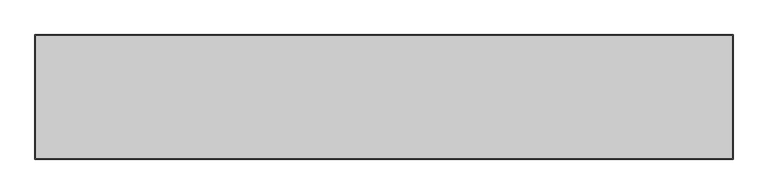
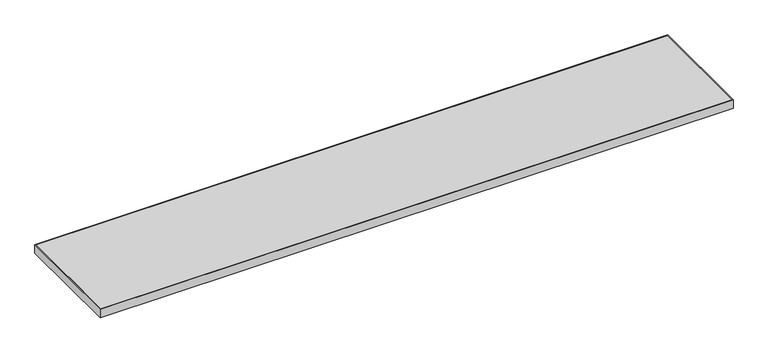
"""IFC4 building model written with IfcOpenShell, lengths in millimetres: furniture geometry, Steelcase - Universal Storage - Square Edge Top - Flush Front - Laminate : Common Top - 15D x 84W."""

from ifc_helpers import new_model, si_unit, frame, origin, place, context, project, spatial, polyline, outline, extrude, source, transform, mapped, element, save


def furniture_af12f208(model_context):
    return source(origin(), model_context, "Body", "SweptSolid", [
        extrude(outline(polyline([(2130.5520001, -3.0479999), (2130.5520001, -377.9520001), (3.0479999, -377.9520001), (3.0479999, -3.0479999), (2130.5520001, -3.0479999)])), frame((0.0, 0.0, 680.72), z_axis=(0.0, 0.0, 1.0), x_axis=(1.0, 0.0, 0.0)), (0.0, 0.0, 1.0), 30.48),
        extrude(outline(polyline([(2133.6, 0.0), (2133.6, -381.0), (0.0, -381.0), (0.0, 0.0), (2133.6, 0.0)]), holes=[polyline([(2130.5520001, -3.0479999), (3.0479999, -3.0479999), (3.0479999, -377.9520001), (2130.5520001, -377.9520001), (2130.5520001, -3.0479999)])]), frame((0.0, 0.0, 680.72), z_axis=(0.0, 0.0, 1.0), x_axis=(1.0, 0.0, 0.0)), (0.0, 0.0, 1.0), 30.48),
    ])


if __name__ == "__main__":
    model = new_model("IFC4")
    model_context = context("Model", 3, world=origin())
    ifc_project = project(units=[si_unit("LENGTHUNIT", "METRE", prefix="MILLI")], contexts=[model_context])
    site = spatial("IfcSite", under=ifc_project)
    building = spatial("IfcBuilding", under=site)
    placement = place(None, origin())
    furniture_shape = furniture_af12f208(model_context)
    element("IfcFurniture", 1, ObjectType="Steelcase - Universal Storage - Square Edge Top - Flush Front - Laminate : Common Top - 15D x 84W", at=placement, inside=building, context=model_context, shape_type="MappedRepresentation", body=[
        mapped(furniture_shape, transform((0.0, 0.0, 0.0), x_axis=(1.0, 0.0, 0.0), y_axis=(0.0, 1.0, 0.0), z_axis=(0.0, 0.0, 1.0))),
    ])
    save(model, "model.ifc")
